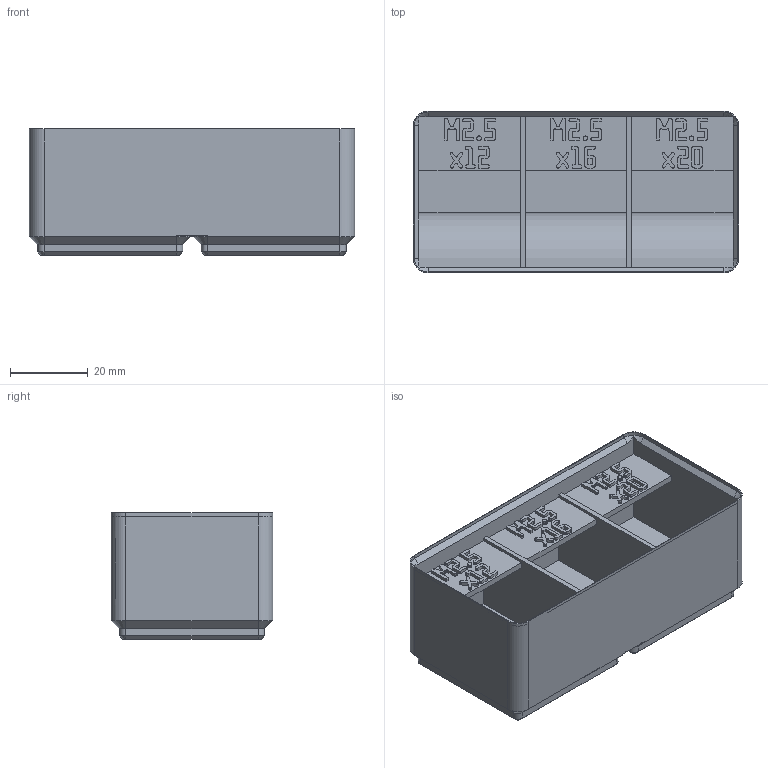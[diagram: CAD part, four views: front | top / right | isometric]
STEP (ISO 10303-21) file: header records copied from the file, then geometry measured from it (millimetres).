
FILE_DESCRIPTION(('Open CASCADE Model'),'2;1');
FILE_NAME('Open CASCADE Shape Model','2026-11-16T17:31:51',('Author'),( 'Open CASCADE'),'Open CASCADE STEP processor 8.0','build123d', 'Unknown');
FILE_SCHEMA(('AUTOMOTIVE_DESIGN { 1 0 10303 214 1 1 1 1 }'));
Products named in the file (1): SOLID
Bounding box: 83.5 x 41.5 x 32.4 mm (x, y, z)
Volume: 49405.1 mm3; surface area: 23574.2 mm2
Topology: 1 solids, 1 shells, 2185 faces, 6415 edges, 4258 vertices
Faces by surface type: plane 2142, cylinder 23, cone 20
Entity records: 150306 total; most frequent: CARTESIAN_POINT 30153, DIRECTION 19399, LINE 14879, VECTOR 14879, ORIENTED_EDGE 12830, PCURVE 12830, DEFINITIONAL_REPRESENTATION 12830, EDGE_CURVE 6415
